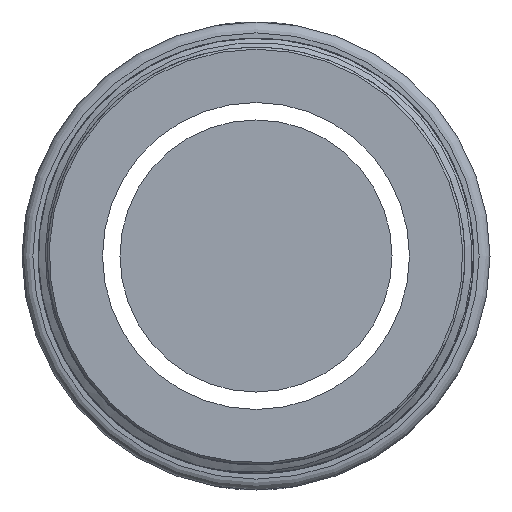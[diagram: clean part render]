
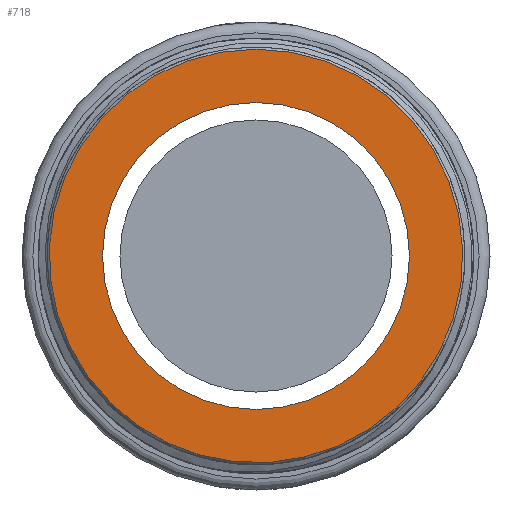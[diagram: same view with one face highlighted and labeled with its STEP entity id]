
A CAD part, left-side view. The second image highlights one B-rep face of the part: STEP entity #718.
In plain terms, the highlighted planar face has unit normal (-1, 0, 0).
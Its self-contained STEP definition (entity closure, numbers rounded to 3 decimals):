
#239 = CIRCLE ( 'NONE', #3579, 19. ) ;
#240 = DIRECTION ( 'NONE',  ( 0., 0., 1. ) ) ;
#450 = CIRCLE ( 'NONE', #2506, 14.1 ) ;
#718 = ADVANCED_FACE ( 'NONE', ( #1420, #3632 ), #2500, .T. ) ;
#763 = EDGE_CURVE ( 'NONE', #765, #765, #450, .T. ) ;
#765 = VERTEX_POINT ( 'NONE', #3662 ) ;
#1036 = ORIENTED_EDGE ( 'NONE', *, *, #763, .T. ) ;
#1108 = CARTESIAN_POINT ( 'NONE',  ( -84., 0., 0. ) ) ;
#1118 = VERTEX_POINT ( 'NONE', #2569 ) ;
#1258 = CARTESIAN_POINT ( 'NONE',  ( -84., 0., 0. ) ) ;
#1420 = FACE_OUTER_BOUND ( 'NONE', #3175, .T. ) ;
#1439 = DIRECTION ( 'NONE',  ( 0., 0., -1. ) ) ;
#1461 = DIRECTION ( 'NONE',  ( -1., 0., 0. ) ) ;
#1639 = DIRECTION ( 'NONE',  ( -1., 0., 0. ) ) ;
#1703 = EDGE_LOOP ( 'NONE', ( #1036 ) ) ;
#1885 = AXIS2_PLACEMENT_3D ( 'NONE', #2161, #1461, #2143 ) ;
#2143 = DIRECTION ( 'NONE',  ( 0., 0., 1. ) ) ;
#2161 = CARTESIAN_POINT ( 'NONE',  ( -84., 20., 0. ) ) ;
#2500 = PLANE ( 'NONE',  #1885 ) ;
#2506 = AXIS2_PLACEMENT_3D ( 'NONE', #1108, #3613, #1439 ) ;
#2569 = CARTESIAN_POINT ( 'NONE',  ( -84., 0., 19. ) ) ;
#3175 = EDGE_LOOP ( 'NONE', ( #3603 ) ) ;
#3579 = AXIS2_PLACEMENT_3D ( 'NONE', #1258, #1639, #240 ) ;
#3603 = ORIENTED_EDGE ( 'NONE', *, *, #4140, .T. ) ;
#3613 = DIRECTION ( 'NONE',  ( 1., 0., 0. ) ) ;
#3632 = FACE_BOUND ( 'NONE', #1703, .T. ) ;
#3662 = CARTESIAN_POINT ( 'NONE',  ( -84., 0., -14.1 ) ) ;
#4140 = EDGE_CURVE ( 'NONE', #1118, #1118, #239, .T. ) ;
